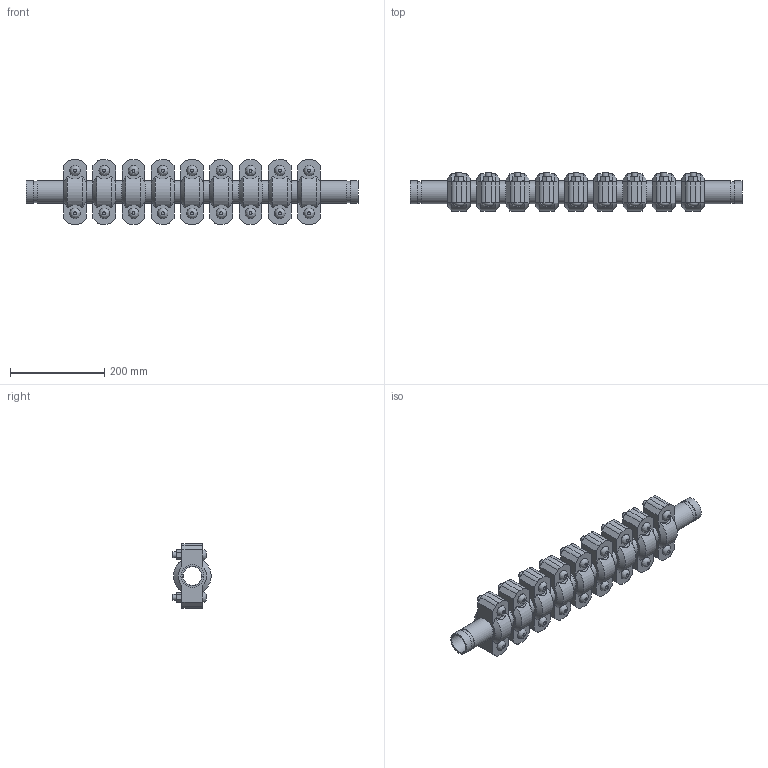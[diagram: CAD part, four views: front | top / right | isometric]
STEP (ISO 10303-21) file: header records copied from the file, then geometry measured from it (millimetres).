
FILE_DESCRIPTION(/* description */ ('VIC EXPANSION JOINT 9 COUPLINGS EXPANDED STYLE 155 (OGS)','CAx-IF Rec.Pracs.---Representation and Presentation of Product Manufacturing Information (PMI)---4.0---2014-10-13'),/* implementation_level */ '2;1');
FILE_NAME(/* name */ 'C:\Users\kkamble\AppData\Roaming\Autodesk\ApplicationPlugins\Victaulic.Temp\A90\Victaulic_IPS_Expansion Joint_Expanded_9 Couplings_Style 155 (OGS)_1.5 (40).stp',/* time_stamp */ '2021-06-27T00:10:59+02:00',/* author */ ('kkamble'),/* organization */ ('Victaulic'),/* preprocessor_version */ 'ST-DEVELOPER v17.2',/* originating_system */ 'Autodesk Inventor 2019',/* authorisation */ '');
FILE_SCHEMA (('AP242_MANAGED_MODEL_BASED_3D_ENGINEERING_MIM_LF { 1 0 10303 442 1 1 4 }'));
Length unit declared in the file: inch
Products named in the file (4): 155-01.5; Nipple-01.5; Nipple-01.5_1; 077-01.5
Assembly tree (19 placements, depth 2):
  155-01.5
    Nipple-01.5  x2
    Nipple-01.5_1  x8
    077-01.5  x9
Bounding box: 703.33 x 81.03 x 136.65 mm (x, y, z)
Volume: 2695921.6 mm3; surface area: 624175.2 mm2
Topology: 19 solids, 37 shells, 669 faces, 1605 edges, 1122 vertices
Faces by surface type: plane 384, cylinder 231, cone 36, bspline 18
Full cylindrical faces by diameter (mm): 12.7 x36, 14.605 x18, 39.37 x9, 40.894 x10, 45.085 x20, 48.26 x48
Entity records: 3081 total; most frequent: CARTESIAN_POINT 611, DIRECTION 501, ORIENTED_EDGE 410, EDGE_CURVE 205, AXIS2_PLACEMENT_3D 202, VERTEX_POINT 146, EDGE_LOOP 111, LINE 97
